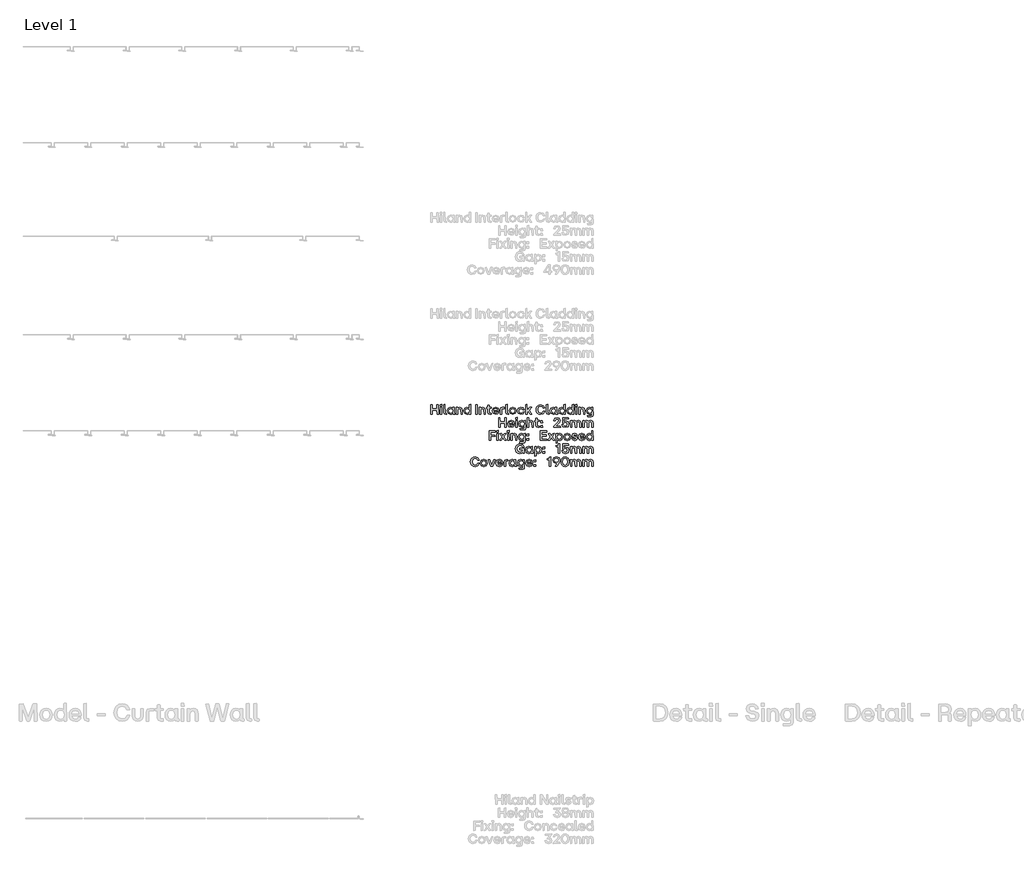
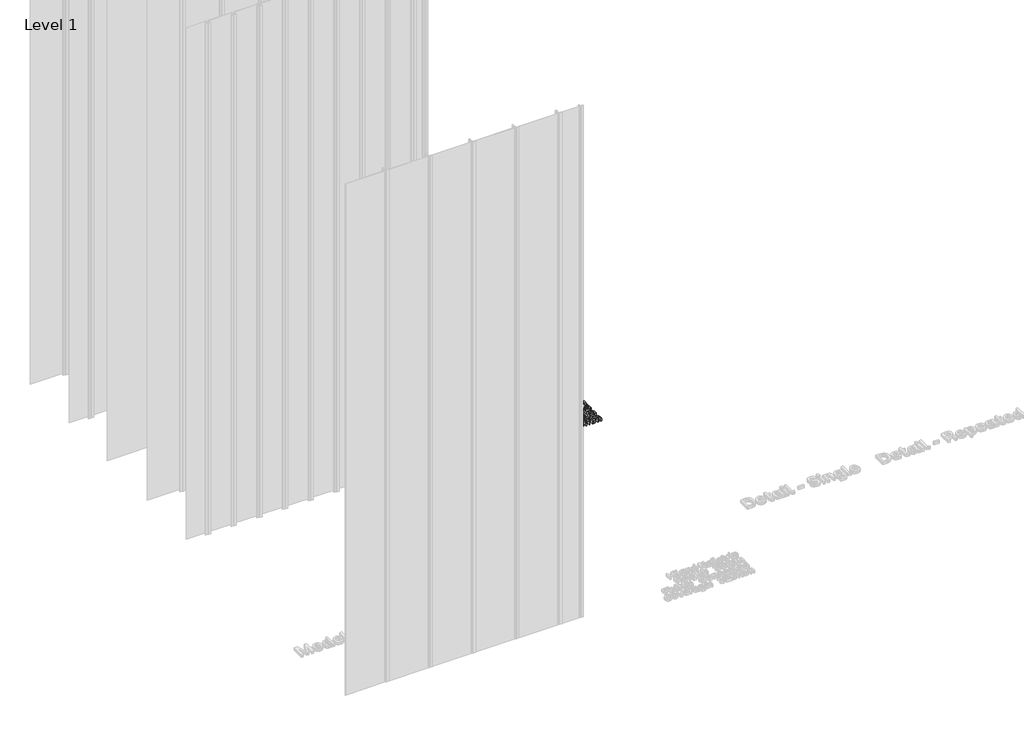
# One storey, part 32 of 64: 1 proxy.
"""IFC4 building model written with IfcOpenShell, lengths in millimetres."""

from ifc_helpers import new_model, si_unit, origin, origin_with_axes, place, context, project, spatial, polyline, outline, extrude, element, save

model = new_model("IFC4")

# Units and contexts
model_context = context("Model", 3, world=origin())
ifc_project = project(units=[si_unit("LENGTHUNIT", "METRE", prefix="MILLI")], contexts=[model_context])

# Site, building, storey
site = spatial("IfcSite", under=ifc_project)
building = spatial("IfcBuilding", under=site)
storey = spatial("IfcBuildingStorey", under=building, Name="Level 1", Elevation=0.0)

# Proxy
placement = place(None, origin())
element("IfcBuildingElementProxy", 1, Name="50mm", ObjectType="50mm", at=placement, inside=storey, context=model_context, shape_type="SweptSolid", body=[
    extrude(outline(polyline([(2183.5639115, 96.9748178), (2182.8665797, 118.9128767), (2159.0178316, 118.9128767), (2159.0178316, 97.6721497), (2151.5145413, 96.9748178), (2150.7893162, 146.2482839), (2158.2786599, 146.973509), (2159.0178316, 125.8861949), (2182.8665797, 125.8861949), (2182.8665797, 146.2482839), (2190.3559234, 146.973509), (2191.0532552, 97.6721497), (2183.5639115, 96.9748178)])), origin_with_axes(), (0.0, 0.0, 1.0), 20.0),
    extrude(outline(polyline([(2201.1506198, 96.9748178), (2200.4253948, 132.6782068), (2207.6358057, 133.3755386), (2208.3331375, 97.6721497), (2201.1506198, 96.9748178)])), origin_with_axes(), (0.0, 0.0, 1.0), 20.0),
    extrude(outline(polyline([(2200.2161952, 140.0420307), (2199.8675293, 148.0892399), (2208.2634043, 148.8284116), (2209.0025761, 140.3906966), (2200.2161952, 140.0420307)])), origin_with_axes(), (0.0, 0.0, 1.0), 20.0),
    extrude(outline(polyline([(2227.7329086, 96.9748178), (2220.0343654, 99.6246787), (2217.3845045, 107.3371686), (2217.3845045, 147.6708408), (2224.5949154, 148.4100125), (2225.2922473, 103.2508042), (2231.9587394, 103.2508042), (2232.6560712, 97.6721497), (2227.7329086, 96.9748178)])), origin_with_axes(), (0.0, 0.0, 1.0), 20.0),
    extrude(outline(polyline([(2252.8229073, 96.5564188), (2241.0519463, 101.5981278), (2236.6727025, 115.105445), (2241.0519463, 128.7452553), (2252.8229073, 133.8357776), (2259.4405862, 132.2319144), (2264.4265087, 127.838724), (2264.7472813, 132.6782068), (2271.929799, 133.3755386), (2272.6550241, 103.2508042), (2276.6019222, 103.2508042), (2277.299254, 97.6721497), (2271.3022004, 96.9748178), (2266.6475105, 98.282315), (2265.0959472, 102.2048065), (2259.7404389, 98.1602819), (2252.8229073, 96.5564188)]), holes=[polyline([(2244.7338583, 115.105445), (2247.4883189, 106.2144644), (2255.0125292, 102.9718715), (2262.3763532, 106.2005178), (2265.0262141, 115.105445), (2262.3554332, 124.1010254), (2255.0125292, 127.378485), (2247.4883189, 124.1010254), (2244.7338583, 115.105445)])]), origin_with_axes(), (0.0, 0.0, 1.0), 20.0),
    extrude(outline(polyline([(2284.160999, 96.9748178), (2283.435774, 132.6782068), (2290.297519, 133.3755386), (2290.9948508, 127.838724), (2296.1585929, 132.3365142), (2302.7797585, 133.8357776), (2312.3401777, 129.6517867), (2315.6525038, 117.40664), (2315.6525038, 97.6721497), (2308.4281462, 96.9748178), (2307.7029211, 117.40664), (2305.750392, 124.7844106), (2299.5790055, 127.0995522), (2293.3518324, 124.749544), (2291.3435167, 117.40664), (2291.3435167, 97.6721497), (2284.160999, 96.9748178)])), origin_with_axes(), (0.0, 0.0, 1.0), 20.0),
    extrude(outline(polyline([(2338.5110407, 96.5564188), (2326.7400796, 101.5981278), (2322.3608359, 115.105445), (2326.7400796, 128.7452553), (2338.5110407, 133.8357776), (2345.1287196, 132.2319144), (2350.1146421, 127.838724), (2350.4354147, 147.6708408), (2357.6179324, 148.4100125), (2358.3431575, 97.6721497), (2351.4814124, 96.9748178), (2350.7840806, 102.4837392), (2345.4285723, 98.1602819), (2338.5110407, 96.5564188)]), holes=[polyline([(2330.4219916, 115.105445), (2333.1764523, 106.2144644), (2340.7006626, 102.9718715), (2348.0644865, 106.2005178), (2350.7143474, 115.105445), (2348.0435666, 124.1010254), (2340.7006626, 127.378485), (2333.1764523, 124.1010254), (2330.4219916, 115.105445)])]), origin_with_axes(), (0.0, 0.0, 1.0), 20.0),
    extrude(outline(polyline([(2385.7204045, 96.9748178), (2385.0230727, 146.2482839), (2392.526363, 146.973509), (2393.2236949, 97.6721497), (2385.7204045, 96.9748178)])), origin_with_axes(), (0.0, 0.0, 1.0), 20.0),
    extrude(outline(polyline([(2403.7673519, 96.9748178), (2403.0421268, 132.6782068), (2409.9038719, 133.3755386), (2410.6012037, 127.838724), (2415.7649458, 132.3365142), (2422.3861113, 133.8357776), (2431.9465305, 129.6517867), (2435.2588566, 117.40664), (2435.2588566, 97.6721497), (2428.034499, 96.9748178), (2427.3092739, 117.40664), (2425.3567449, 124.7844106), (2419.1853583, 127.0995522), (2412.9581852, 124.749544), (2410.9498696, 117.40664), (2410.9498696, 97.6721497), (2403.7673519, 96.9748178)])), origin_with_axes(), (0.0, 0.0, 1.0), 20.0),
    extrude(outline(polyline([(2458.5357926, 96.9748178), (2450.8233027, 99.6246787), (2448.1734418, 107.3371686), (2448.1734418, 127.0995522), (2441.9671887, 127.0995522), (2441.2419636, 132.6782068), (2448.1734418, 133.3755386), (2448.1734418, 143.3892234), (2455.3977994, 144.1144485), (2456.0951313, 133.3755386), (2464.8815121, 133.3755386), (2465.6067372, 127.838724), (2456.0951313, 127.0995522), (2456.0951313, 103.2508042), (2464.8815121, 103.2508042), (2465.6067372, 97.6721497), (2458.5357926, 96.9748178)])), origin_with_axes(), (0.0, 0.0, 1.0), 20.0),
    extrude(outline(polyline([(2488.9394597, 96.5564188), (2475.5367422, 101.5981278), (2470.5298998, 115.105445), (2475.5158223, 128.759202), (2488.9394597, 133.8357776), (2501.219473, 128.8289351), (2505.7172632, 115.1751782), (2505.7172632, 113.264489), (2478.6607888, 112.5253173), (2481.7290488, 105.482266), (2488.9394597, 102.9718715), (2494.7273138, 104.2479887), (2497.7258406, 107.8253009), (2504.8107318, 108.4110596), (2500.1525553, 99.6455987), (2488.9394597, 96.5564188)]), holes=[polyline([(2478.730522, 118.3131714), (2497.9350401, 118.3131714), (2495.2921526, 124.9587436), (2488.9394597, 127.378485), (2481.8475952, 125.07729), (2478.730522, 118.3131714)])]), origin_with_axes(), (0.0, 0.0, 1.0), 20.0),
    extrude(outline(polyline([(2513.1787136, 96.9748178), (2512.4813818, 123.0550277), (2515.1312427, 130.7465976), (2522.8297859, 133.3755386), (2532.9829371, 133.3755386), (2533.6802689, 127.378485), (2520.3891246, 126.6811531), (2520.3891246, 97.6721497), (2513.1787136, 96.9748178)])), origin_with_axes(), (0.0, 0.0, 1.0), 20.0),
    extrude(outline(polyline([(2550.8485782, 96.9748178), (2543.150035, 99.6246787), (2540.5001741, 107.3371686), (2540.5001741, 147.6708408), (2547.7105851, 148.4100125), (2548.4079169, 103.2508042), (2555.074409, 103.2508042), (2555.7717408, 97.6721497), (2550.8485782, 96.9748178)])), origin_with_axes(), (0.0, 0.0, 1.0), 20.0),
    extrude(outline(polyline([(2577.9887324, 96.5564188), (2564.8300811, 101.6818076), (2559.7883721, 115.105445), (2564.8440277, 128.6406555), (2577.9887324, 133.8357776), (2591.2589569, 128.6406555), (2596.3285592, 115.105445), (2591.2589569, 101.6818076), (2577.9887324, 96.5564188)]), holes=[polyline([(2567.8495279, 115.105445), (2570.548202, 106.2005178), (2577.9887324, 102.9718715), (2585.5268894, 106.2144644), (2588.28135, 115.105445), (2585.540836, 124.1010254), (2577.9887324, 127.378485), (2570.548202, 124.1010254), (2567.8495279, 115.105445)])]), origin_with_axes(), (0.0, 0.0, 1.0), 20.0),
    extrude(outline(polyline([(2620.0796808, 96.5564188), (2606.7466965, 101.5981278), (2601.7398541, 115.105445), (2606.8164297, 128.6406555), (2620.0796808, 133.8357776), (2631.15331, 130.3979317), (2636.369352, 121.3116982), (2629.3541939, 120.5446332), (2625.783855, 125.844355), (2620.0796808, 127.378485), (2612.5206039, 124.1010254), (2609.8010098, 115.105445), (2612.5345505, 106.1795978), (2620.0796808, 102.9718715), (2625.958188, 104.4362683), (2628.9357948, 109.1781246), (2636.0206861, 109.8475631), (2631.3625095, 99.9942646), (2620.0796808, 96.5564188)])), origin_with_axes(), (0.0, 0.0, 1.0), 20.0),
    extrude(outline(polyline([(2644.765227, 96.9748178), (2644.0400019, 147.6708408), (2651.2504129, 148.4100125), (2651.9477447, 117.6158396), (2667.1914182, 133.0268727), (2675.0991609, 133.3755386), (2662.3798286, 118.4526377), (2676.4659313, 97.8534559), (2668.8231746, 96.9748178), (2657.1080001, 113.264489), (2651.9477447, 108.2018601), (2651.9477447, 97.6721497), (2644.765227, 96.9748178)])), origin_with_axes(), (0.0, 0.0, 1.0), 20.0),
    extrude(outline(polyline([(2722.7548172, 96.5564188), (2712.7481056, 98.2701117), (2705.0425891, 103.4111905), (2700.1263998, 111.4810629), (2698.48767, 121.9811367), (2700.1403464, 132.3051342), (2705.0983756, 140.4046433), (2712.8178388, 145.6450918), (2722.7548172, 147.391908), (2736.9315729, 142.7755714), (2743.8839711, 130.4885849), (2736.5619871, 129.6796799), (2731.398245, 137.8698421), (2722.7548172, 140.3906966), (2711.0954292, 135.4535874), (2706.8556518, 121.9811367), (2711.0745093, 108.397113), (2722.7548172, 103.5297369), (2731.5690913, 106.0157248), (2736.2551611, 113.4736886), (2743.6747716, 114.1291805), (2737.2105057, 101.1588087), (2722.7548172, 96.5564188)])), origin_with_axes(), (0.0, 0.0, 1.0), 20.0),
    extrude(outline(polyline([(2762.3911575, 96.9748178), (2754.6926143, 99.6246787), (2752.0427534, 107.3371686), (2752.0427534, 147.6708408), (2759.2531643, 148.4100125), (2759.9504961, 103.2508042), (2766.6169883, 103.2508042), (2767.3143201, 97.6721497), (2762.3911575, 96.9748178)])), origin_with_axes(), (0.0, 0.0, 1.0), 20.0),
    extrude(outline(polyline([(2787.4811562, 96.5564188), (2775.7101952, 101.5981278), (2771.3309514, 115.105445), (2775.7101952, 128.7452553), (2787.4811562, 133.8357776), (2794.0988351, 132.2319144), (2799.0847576, 127.838724), (2799.4055302, 132.6782068), (2806.5880479, 133.3755386), (2807.313273, 103.2508042), (2811.2601711, 103.2508042), (2811.9575029, 97.6721497), (2805.9604493, 96.9748178), (2801.3057594, 98.282315), (2799.7541961, 102.2048065), (2794.3986878, 98.1602819), (2787.4811562, 96.5564188)]), holes=[polyline([(2779.3921071, 115.105445), (2782.1465678, 106.2144644), (2789.6707781, 102.9718715), (2797.034602, 106.2005178), (2799.6844629, 115.105445), (2797.0136821, 124.1010254), (2789.6707781, 127.378485), (2782.1465678, 124.1010254), (2779.3921071, 115.105445)])]), origin_with_axes(), (0.0, 0.0, 1.0), 20.0),
    extrude(outline(polyline([(2832.1103923, 96.5564188), (2820.3394313, 101.5981278), (2815.9601875, 115.105445), (2820.3394313, 128.7452553), (2832.1103923, 133.8357776), (2838.7280712, 132.2319144), (2843.7139937, 127.838724), (2844.0347663, 147.6708408), (2851.217284, 148.4100125), (2851.9425091, 97.6721497), (2845.0807641, 96.9748178), (2844.3834323, 102.4837392), (2839.0279239, 98.1602819), (2832.1103923, 96.5564188)]), holes=[polyline([(2824.0213433, 115.105445), (2826.7758039, 106.2144644), (2834.3000142, 102.9718715), (2841.6638382, 106.2005178), (2844.3136991, 115.105445), (2841.6429182, 124.1010254), (2834.3000142, 127.378485), (2826.7758039, 124.1010254), (2824.0213433, 115.105445)])]), origin_with_axes(), (0.0, 0.0, 1.0), 20.0),
    extrude(outline(polyline([(2874.954459, 96.5564188), (2863.183498, 101.5981278), (2858.8042542, 115.105445), (2863.183498, 128.7452553), (2874.954459, 133.8357776), (2881.5721379, 132.2319144), (2886.5580604, 127.838724), (2886.878833, 147.6708408), (2894.0613507, 148.4100125), (2894.7865758, 97.6721497), (2887.9248308, 96.9748178), (2887.2274989, 102.4837392), (2881.8719906, 98.1602819), (2874.954459, 96.5564188)]), holes=[polyline([(2866.86541, 115.105445), (2869.6198706, 106.2144644), (2877.1440809, 102.9718715), (2884.5079049, 106.2005178), (2887.1577658, 115.105445), (2884.4869849, 124.1010254), (2877.1440809, 127.378485), (2869.6198706, 124.1010254), (2866.86541, 115.105445)])]), origin_with_axes(), (0.0, 0.0, 1.0), 20.0),
    extrude(outline(polyline([(2904.5073813, 96.9748178), (2903.7821562, 132.6782068), (2910.9925672, 133.3755386), (2911.689899, 97.6721497), (2904.5073813, 96.9748178)])), origin_with_axes(), (0.0, 0.0, 1.0), 20.0),
    extrude(outline(polyline([(2903.5729567, 140.0420307), (2903.2242908, 148.0892399), (2911.6201658, 148.8284116), (2912.3593375, 140.3906966), (2903.5729567, 140.0420307)])), origin_with_axes(), (0.0, 0.0, 1.0), 20.0),
    extrude(outline(polyline([(2921.466491, 96.9748178), (2920.741266, 132.6782068), (2927.603011, 133.3755386), (2928.3003428, 127.838724), (2933.4640849, 132.3365142), (2940.0852505, 133.8357776), (2949.6456697, 129.6517867), (2952.9579958, 117.40664), (2952.9579958, 97.6721497), (2945.7336382, 96.9748178), (2945.0084131, 117.40664), (2943.055884, 124.7844106), (2936.8844975, 127.0995522), (2930.6573244, 124.749544), (2928.6490087, 117.40664), (2928.6490087, 97.6721497), (2921.466491, 96.9748178)])), origin_with_axes(), (0.0, 0.0, 1.0), 20.0),
    extrude(outline(polyline([(2967.2393514, 83.4186874), (2966.5001796, 88.9973419), (2987.7409067, 89.6946737), (2987.7409067, 102.5534724), (2982.4342116, 98.1602819), (2975.8165327, 96.5564188), (2964.0455716, 101.6329944), (2959.6663278, 115.2449114), (2964.0455716, 128.7801219), (2975.8165327, 133.8357776), (2982.7340643, 132.2319144), (2987.8106399, 127.9084571), (2988.0895726, 132.6782068), (2994.9234244, 133.3755386), (2995.6486495, 93.4184256), (2993.0685218, 85.9778951), (2985.6489113, 83.4186874), (2967.2393514, 83.4186874)]), holes=[polyline([(2967.7274836, 115.2449114), (2970.4819443, 106.249331), (2978.0061546, 102.9718715), (2985.3490586, 106.249331), (2988.0198394, 115.2449114), (2985.3699785, 124.156812), (2978.0061546, 127.378485), (2970.4819443, 124.135892), (2967.7274836, 115.2449114)])]), origin_with_axes(), (0.0, 0.0, 1.0), 20.0),
    extrude(outline(polyline([(2536.1348769, 29.1231234), (2535.4375451, 51.0611823), (2511.5887971, 51.0611823), (2511.5887971, 29.8204552), (2504.0855067, 29.1231234), (2503.3602816, 78.3965894), (2510.8496253, 79.1218145), (2511.5887971, 58.0345004), (2535.4375451, 58.0345004), (2535.4375451, 78.3965894), (2542.9268888, 79.1218145), (2543.6242206, 29.8204552), (2536.1348769, 29.1231234)])), origin_with_axes(), (0.0, 0.0, 1.0), 20.0),
    extrude(outline(polyline([(2569.2720848, 28.7047243), (2555.8693673, 33.7464333), (2550.8625249, 47.2537506), (2555.8484473, 60.9075075), (2569.2720848, 65.9840831), (2581.552098, 60.9772407), (2586.0498882, 47.3234838), (2586.0498882, 45.4127946), (2558.9934138, 44.6736229), (2562.0616738, 37.6305715), (2569.2720848, 35.120177), (2575.0599388, 36.3962942), (2578.0584656, 39.9736064), (2585.1433569, 40.5593652), (2580.4851803, 31.7939042), (2569.2720848, 28.7047243)]), holes=[polyline([(2559.063147, 50.4614769), (2578.2676652, 50.4614769), (2575.6247776, 57.1070491), (2569.2720848, 59.5267905), (2562.1802202, 57.2255955), (2559.063147, 50.4614769)])]), origin_with_axes(), (0.0, 0.0, 1.0), 20.0),
    extrude(outline(polyline([(2593.8878978, 29.1231234), (2593.1626727, 64.8265123), (2600.3730837, 65.5238441), (2601.0704155, 29.8204552), (2593.8878978, 29.1231234)])), origin_with_axes(), (0.0, 0.0, 1.0), 20.0),
    extrude(outline(polyline([(2592.9534732, 72.1903363), (2592.6048073, 80.2375454), (2601.0006823, 80.9767171), (2601.7398541, 72.5390022), (2592.9534732, 72.1903363)])), origin_with_axes(), (0.0, 0.0, 1.0), 20.0),
    extrude(outline(polyline([(2615.5609706, 15.5669929), (2614.8217989, 21.1456474), (2636.062526, 21.8429792), (2636.062526, 34.7017779), (2630.7558309, 30.3085875), (2624.1381519, 28.7047243), (2612.3671909, 33.7812999), (2607.9879471, 47.3932169), (2612.3671909, 60.9284275), (2624.1381519, 65.9840831), (2631.0556835, 64.3802199), (2636.1322591, 60.0567627), (2636.4111919, 64.8265123), (2643.2450437, 65.5238441), (2643.9702687, 25.5667311), (2641.390141, 18.1262007), (2633.9705305, 15.5669929), (2615.5609706, 15.5669929)]), holes=[polyline([(2616.0491029, 47.3932169), (2618.8035636, 38.3976365), (2626.3277738, 35.120177), (2633.6706778, 38.3976365), (2636.3414587, 47.3932169), (2633.6915978, 56.3051175), (2626.3277738, 59.5267905), (2618.8035636, 56.2841976), (2616.0491029, 47.3932169)])]), origin_with_axes(), (0.0, 0.0, 1.0), 20.0),
    extrude(outline(polyline([(2653.6910742, 29.1231234), (2652.9658492, 79.8191463), (2660.1762601, 80.558318), (2660.8735919, 60.2659622), (2665.9606275, 64.5545529), (2672.3098337, 65.9840831), (2681.8702529, 61.8000922), (2685.182579, 49.5549456), (2685.182579, 29.8204552), (2677.9582214, 29.1231234), (2677.2329963, 49.5549456), (2675.2804672, 56.9327162), (2669.1090807, 59.2478578), (2662.8819076, 56.8978496), (2660.8735919, 49.5549456), (2660.8735919, 29.8204552), (2653.6910742, 29.1231234)])), origin_with_axes(), (0.0, 0.0, 1.0), 20.0),
    extrude(outline(polyline([(2708.459515, 29.1231234), (2700.7470251, 31.7729843), (2698.0971642, 39.4854742), (2698.0971642, 59.2478578), (2691.890911, 59.2478578), (2691.165686, 64.8265123), (2698.0971642, 65.5238441), (2698.0971642, 75.537529), (2705.3215218, 76.2627541), (2706.0188536, 65.5238441), (2714.8052345, 65.5238441), (2715.5304596, 59.9870295), (2706.0188536, 59.2478578), (2706.0188536, 35.3991097), (2714.8052345, 35.3991097), (2715.5304596, 29.8204552), (2708.459515, 29.1231234)])), origin_with_axes(), (0.0, 0.0, 1.0), 20.0),
    extrude(outline(polyline([(2722.9361234, 52.7626719), (2722.2387916, 62.3858509), (2731.7225043, 63.1250227), (2732.4477294, 53.4600037), (2722.9361234, 52.7626719)])), origin_with_axes(), (0.0, 0.0, 1.0), 20.0),
    extrude(outline(polyline([(2722.5874575, 29.4717893), (2722.2387916, 38.7463024), (2731.7225043, 39.4854742), (2732.4477294, 29.8204552), (2722.5874575, 29.4717893)])), origin_with_axes(), (0.0, 0.0, 1.0), 20.0),
    extrude(outline(polyline([(2790.4238964, 29.1231234), (2789.6986714, 33.9068196), (2807.0622335, 49.9036115), (2814.2098846, 57.8183276), (2816.1972803, 65.105445), (2814.216858, 70.7852127), (2808.2755909, 72.6784685), (2801.4068725, 70.6004197), (2798.5547854, 64.031554), (2791.1212283, 63.3342222), (2795.7096716, 75.5305557), (2808.2755909, 79.5402136), (2820.1023385, 75.670022), (2824.4257957, 65.105445), (2821.7410682, 55.328853), (2812.5711549, 44.9246623), (2803.1153355, 36.4172142), (2825.8483526, 36.1382814), (2826.5456844, 29.8204552), (2790.4238964, 29.1231234)])), origin_with_axes(), (0.0, 0.0, 1.0), 20.0),
    extrude(outline(polyline([(2851.8030428, 28.7047243), (2838.6025515, 32.4005829), (2832.7937775, 43.1115996), (2840.1576015, 43.9065579), (2844.365999, 37.4736719), (2851.8030428, 35.5385761), (2859.2087066, 38.2233036), (2861.802781, 45.8311937), (2859.2226533, 53.1322578), (2851.6635764, 55.6217323), (2841.3012256, 51.6887809), (2836.4617428, 51.9677136), (2837.5077406, 78.3965894), (2867.1443427, 79.1218145), (2867.8695678, 72.8179349), (2844.1602861, 72.1206031), (2843.3653278, 59.4570573), (2848.5395299, 61.6536525), (2854.2437041, 62.4555841), (2865.7984923, 58.0275271), (2870.0034031, 45.8311937), (2865.1918136, 33.2234345), (2851.8030428, 28.7047243)])), origin_with_axes(), (0.0, 0.0, 1.0), 20.0),
    extrude(outline(polyline([(2878.6224244, 29.1231234), (2877.8971993, 64.8265123), (2884.7589443, 65.5238441), (2885.4562761, 59.9870295), (2890.4421986, 64.4848197), (2896.8925179, 65.9840831), (2903.1789642, 64.4848197), (2907.394335, 59.9870295), (2913.2170557, 64.4290332), (2920.4623332, 65.9840831), (2929.7368464, 61.8140389), (2932.9445727, 49.5549456), (2932.9445727, 29.8204552), (2925.7341617, 29.1231234), (2925.0368299, 49.5549456), (2923.154034, 56.9327162), (2917.1848737, 59.2478578), (2911.2784732, 56.8978496), (2909.3747574, 49.5549456), (2909.3747574, 29.8204552), (2902.1643464, 29.1231234), (2901.4670146, 49.5549456), (2899.5981653, 56.9327162), (2893.6847915, 59.2478578), (2887.7086579, 56.8978496), (2885.804942, 49.5549456), (2885.804942, 29.8204552), (2878.6224244, 29.1231234)])), origin_with_axes(), (0.0, 0.0, 1.0), 20.0),
    extrude(outline(polyline([(2941.9959397, 29.1231234), (2941.2707146, 64.8265123), (2948.1324596, 65.5238441), (2948.8297914, 59.9870295), (2953.8157139, 64.4848197), (2960.2660332, 65.9840831), (2966.5524795, 64.4848197), (2970.7678503, 59.9870295), (2976.590571, 64.4290332), (2983.8358485, 65.9840831), (2993.1103617, 61.8140389), (2996.318088, 49.5549456), (2996.318088, 29.8204552), (2989.1076771, 29.1231234), (2988.4103452, 49.5549456), (2986.5275493, 56.9327162), (2980.558389, 59.2478578), (2974.6519885, 56.8978496), (2972.7482727, 49.5549456), (2972.7482727, 29.8204552), (2965.5378617, 29.1231234), (2964.8405299, 49.5549456), (2962.9716806, 56.9327162), (2957.0583069, 59.2478578), (2951.0821732, 56.8978496), (2949.1784574, 49.5549456), (2949.1784574, 29.8204552), (2941.9959397, 29.1231234)])), origin_with_axes(), (0.0, 0.0, 1.0), 20.0),
    extrude(outline(polyline([(2454.993347, -38.7285711), (2454.2681219, 10.544895), (2485.8572531, 11.27012), (2486.5545849, 4.9662404), (2462.4966373, 4.2689086), (2462.4966373, -10.7934586), (2484.4207496, -10.7934586), (2485.1180814, -17.0694449), (2462.4966373, -17.8086166), (2462.4966373, -38.0312392), (2454.993347, -38.7285711)])), origin_with_axes(), (0.0, 0.0, 1.0), 20.0),
    extrude(outline(polyline([(2494.8109936, -38.7285711), (2494.0857685, -3.0251822), (2501.2961795, -2.3278503), (2501.9935113, -38.0312392), (2494.8109936, -38.7285711)])), origin_with_axes(), (0.0, 0.0, 1.0), 20.0),
    extrude(outline(polyline([(2493.876569, 4.3386418), (2493.5279031, 12.3858509), (2501.9237781, 13.1250227), (2502.6629498, 4.6873077), (2493.876569, 4.3386418)])), origin_with_axes(), (0.0, 0.0, 1.0), 20.0),
    extrude(outline(polyline([(2508.9110429, -38.7285711), (2521.6722151, -20.249278), (2509.4689083, -3.1646485), (2517.4603309, -2.3278503), (2526.2467118, -14.3219576), (2534.4752272, -2.7462494), (2542.5921695, -2.3278503), (2530.9885681, -19.4403731), (2544.0286731, -37.849933), (2536.0372505, -38.7285711), (2526.316445, -25.2979603), (2517.0419319, -38.310172), (2508.9110429, -38.7285711)])), origin_with_axes(), (0.0, 0.0, 1.0), 20.0),
    extrude(outline(polyline([(2551.0438311, -38.7285711), (2550.318606, -3.0251822), (2557.529017, -2.3278503), (2558.2263488, -38.0312392), (2551.0438311, -38.7285711)])), origin_with_axes(), (0.0, 0.0, 1.0), 20.0),
    extrude(outline(polyline([(2550.1094065, 4.3386418), (2549.7607406, 12.3858509), (2558.1566156, 13.1250227), (2558.8957874, 4.6873077), (2550.1094065, 4.3386418)])), origin_with_axes(), (0.0, 0.0, 1.0), 20.0),
    extrude(outline(polyline([(2568.0029409, -38.7285711), (2567.2777158, -3.0251822), (2574.1394608, -2.3278503), (2574.8367926, -7.8646649), (2580.0005347, -3.3668747), (2586.6217003, -1.8676113), (2596.1821195, -6.0516022), (2599.4944456, -18.2967489), (2599.4944456, -38.0312392), (2592.270088, -38.7285711), (2591.5448629, -18.2967489), (2589.5923338, -10.9189783), (2583.4209473, -8.6038367), (2577.1937742, -10.9538449), (2575.1854586, -18.2967489), (2575.1854586, -38.0312392), (2568.0029409, -38.7285711)])), origin_with_axes(), (0.0, 0.0, 1.0), 20.0),
    extrude(outline(polyline([(2613.7758012, -52.2847015), (2613.0366294, -46.706047), (2634.2773565, -46.0087152), (2634.2773565, -33.1499165), (2628.9706614, -37.543107), (2622.3529825, -39.1469702), (2610.5820215, -34.0703945), (2606.2027777, -20.4584775), (2610.5820215, -6.923267), (2622.3529825, -1.8676113), (2629.2705141, -3.4714745), (2634.3470897, -7.7949318), (2634.6260224, -3.0251822), (2641.4598742, -2.3278503), (2642.1850993, -42.2849633), (2639.6049716, -49.7254938), (2632.1853611, -52.2847015), (2613.7758012, -52.2847015)]), holes=[polyline([(2614.2639334, -20.4584775), (2617.0183941, -29.4540579), (2624.5426044, -32.7315175), (2631.8855084, -29.4540579), (2634.5562892, -20.4584775), (2631.9064284, -11.5465769), (2624.5426044, -8.3249039), (2617.0183941, -11.5674969), (2614.2639334, -20.4584775)])]), origin_with_axes(), (0.0, 0.0, 1.0), 20.0),
    extrude(outline(polyline([(2651.5293456, -15.0890225), (2650.8320138, -5.4658435), (2660.3157265, -4.7266718), (2661.0409516, -14.3916907), (2651.5293456, -15.0890225)])), origin_with_axes(), (0.0, 0.0, 1.0), 20.0),
    extrude(outline(polyline([(2651.1806797, -38.3799052), (2650.8320138, -29.105392), (2660.3157265, -28.3662203), (2661.0409516, -38.0312392), (2651.1806797, -38.3799052)])), origin_with_axes(), (0.0, 0.0, 1.0), 20.0),
    extrude(outline(polyline([(2721.8761791, -38.7285711), (2721.150954, 10.544895), (2753.437417, 11.27012), (2754.1626421, 4.9662404), (2729.3794694, 4.2689086), (2729.3794694, -10.0961268), (2752.0009135, -10.0961268), (2752.7400852, -16.3721131), (2729.3794694, -17.0694449), (2729.3794694, -31.713413), (2754.1626421, -31.713413), (2754.8599739, -38.0312392), (2721.8761791, -38.7285711)])), origin_with_axes(), (0.0, 0.0, 1.0), 20.0),
    extrude(outline(polyline([(2760.6199347, -38.7285711), (2773.3811069, -20.249278), (2761.1778001, -3.1646485), (2769.1692227, -2.3278503), (2777.9556036, -14.3219576), (2786.184119, -2.7462494), (2794.3010613, -2.3278503), (2782.6974599, -19.4403731), (2795.7375649, -37.849933), (2787.7461423, -38.7285711), (2778.0253368, -25.2979603), (2768.7508236, -38.310172), (2760.6199347, -38.7285711)])), origin_with_axes(), (0.0, 0.0, 1.0), 20.0),
    extrude(outline(polyline([(2802.7527229, -52.2847015), (2802.0274978, -3.0251822), (2808.8892429, -2.3278503), (2809.5865747, -7.7949318), (2814.942083, -3.4714745), (2821.8596146, -1.8676113), (2833.6305757, -6.923267), (2838.0098195, -20.4584775), (2833.6305757, -34.0703945), (2821.8596146, -39.1469702), (2815.2419357, -37.543107), (2810.2560132, -33.1499165), (2809.9352406, -51.5873697), (2802.7527229, -52.2847015)]), holes=[polyline([(2809.6563079, -20.4584775), (2812.3270887, -29.4540579), (2819.6699927, -32.7315175), (2827.194203, -29.4540579), (2829.9486637, -20.4584775), (2827.194203, -11.5674969), (2819.6699927, -8.3249039), (2812.3061688, -11.5465769), (2809.6563079, -20.4584775)])]), origin_with_axes(), (0.0, 0.0, 1.0), 20.0),
    extrude(outline(polyline([(2860.9380895, -39.1469702), (2847.7794382, -34.0215813), (2842.7377292, -20.5979439), (2847.7933848, -7.0627334), (2860.9380895, -1.8676113), (2874.208314, -7.0627334), (2879.2779163, -20.5979439), (2874.208314, -34.0215813), (2860.9380895, -39.1469702)]), holes=[polyline([(2850.798885, -20.5979439), (2853.4975591, -29.5028712), (2860.9380895, -32.7315175), (2868.4762465, -29.4889245), (2871.2307071, -20.5979439), (2868.4901931, -11.6023635), (2860.9380895, -8.3249039), (2853.4975591, -11.6023635), (2850.798885, -20.5979439)])]), origin_with_axes(), (0.0, 0.0, 1.0), 20.0),
    extrude(outline(polyline([(2900.3094438, -39.1469702), (2889.5775072, -36.1972566), (2885.1076102, -27.7386217), (2892.0530351, -26.9436634), (2895.1352417, -31.7552529), (2900.3094438, -33.0104502), (2904.7723674, -31.8249861), (2906.4459638, -28.645153), (2905.246553, -25.7860926), (2901.1880819, -24.2938025), (2896.0975596, -23.3872711), (2888.3711231, -19.8448255), (2885.8746752, -12.7459877), (2889.5356673, -4.8312716), (2899.4029124, -1.8676113), (2909.0958246, -4.622072), (2913.3216554, -12.4391617), (2906.3762306, -13.2341199), (2903.6287432, -9.071049), (2899.4029124, -8.0041313), (2895.1491884, -9.1059156), (2893.6847915, -12.2996953), (2894.7307893, -15.0681026), (2898.538221, -16.5813126), (2903.9774091, -17.5994171), (2911.9897517, -21.0860762), (2914.2560801, -28.2267539), (2910.6299546, -36.3227763), (2900.3094438, -39.1469702)])), origin_with_axes(), (0.0, 0.0, 1.0), 20.0),
    extrude(outline(polyline([(2937.9095752, -39.1469702), (2924.5068578, -34.1052611), (2919.5000153, -20.5979439), (2924.4859378, -6.944187), (2937.9095752, -1.8676113), (2950.1895885, -6.8744538), (2954.6873787, -20.5282107), (2954.6873787, -22.4388999), (2927.6309043, -23.1780716), (2930.6991643, -30.2211229), (2937.9095752, -32.7315175), (2943.6974293, -31.4554002), (2946.6959561, -27.878088), (2953.7808473, -27.2923293), (2949.1226708, -36.0577902), (2937.9095752, -39.1469702)]), holes=[polyline([(2927.7006375, -17.3902175), (2946.9051556, -17.3902175), (2944.2622681, -10.7446453), (2937.9095752, -8.3249039), (2930.8177107, -10.6260989), (2927.7006375, -17.3902175)])]), origin_with_axes(), (0.0, 0.0, 1.0), 20.0),
    extrude(outline(polyline([(2975.8165327, -39.1469702), (2964.0455716, -34.1052611), (2959.6663278, -20.5979439), (2964.0455716, -6.9581336), (2975.8165327, -1.8676113), (2982.4342116, -3.4714745), (2987.4201341, -7.8646649), (2987.7409067, 11.9674519), (2994.9234244, 12.7066236), (2995.6486495, -38.0312392), (2988.7869044, -38.7285711), (2988.0895726, -33.2196497), (2982.7340643, -37.543107), (2975.8165327, -39.1469702)]), holes=[polyline([(2967.7274836, -20.5979439), (2970.4819443, -29.4889245), (2978.0061546, -32.7315175), (2985.3699785, -29.5028712), (2988.0198394, -20.5979439), (2985.3490586, -11.6023635), (2978.0061546, -8.3249039), (2970.4819443, -11.6023635), (2967.7274836, -20.5979439)])]), origin_with_axes(), (0.0, 0.0, 1.0), 20.0),
    extrude(outline(polyline([(2613.9152675, -106.9986646), (2604.231072, -105.2902017), (2596.7957715, -100.1648128), (2592.0626318, -92.1001704), (2590.4849186, -81.5739466), (2592.1986115, -71.2063659), (2597.3396903, -63.1155735), (2605.304963, -57.9012749), (2615.4912374, -56.1631753), (2630.0933656, -60.7795119), (2637.24799, -73.0664985), (2629.8841661, -73.8754034), (2624.5495777, -65.7096479), (2615.4912374, -63.1643867), (2603.315824, -68.080576), (2598.8529003, -81.5739466), (2603.0578112, -95.1440238), (2614.7520657, -100.0253465), (2624.884297, -96.5386874), (2629.6052334, -87.0131348), (2614.1244671, -87.0131348), (2613.399242, -80.7371485), (2636.6203914, -80.0119234), (2637.3177232, -105.8829337), (2630.9720037, -106.5802655), (2630.2746719, -99.2861747), (2623.6779129, -104.8857492), (2613.9152675, -106.9986646)])), origin_with_axes(), (0.0, 0.0, 1.0), 20.0),
    extrude(outline(polyline([(2660.7341256, -106.9986646), (2648.9631645, -101.9569556), (2644.5839207, -88.4496383), (2648.9631645, -74.809828), (2660.7341256, -69.7193058), (2667.3518045, -71.323169), (2672.337727, -75.7163594), (2672.6584996, -70.8768766), (2679.8410173, -70.1795448), (2680.5662424, -100.3042792), (2684.5131404, -100.3042792), (2685.2104723, -105.8829337), (2679.2134187, -106.5802655), (2674.5587288, -105.2727684), (2673.0071655, -101.3502769), (2667.6516572, -105.3948014), (2660.7341256, -106.9986646)]), holes=[polyline([(2652.6450765, -88.4496383), (2655.3995372, -97.340619), (2662.9237475, -100.5832119), (2670.2875714, -97.3545656), (2672.9374323, -88.4496383), (2670.2666515, -79.4540579), (2662.9237475, -76.1765984), (2655.3995372, -79.4540579), (2652.6450765, -88.4496383)])]), origin_with_axes(), (0.0, 0.0, 1.0), 20.0),
    extrude(outline(polyline([(2692.0722173, -120.136396), (2691.3469922, -70.8768766), (2698.2087373, -70.1795448), (2698.9060691, -75.6466262), (2704.2615774, -71.323169), (2711.179109, -69.7193058), (2722.9500701, -74.7749615), (2727.3293139, -88.310172), (2722.9500701, -101.922089), (2711.179109, -106.9986646), (2704.5614301, -105.3948014), (2699.5755076, -101.001611), (2699.254735, -119.4390642), (2692.0722173, -120.136396)]), holes=[polyline([(2698.9758023, -88.310172), (2701.6465831, -97.3057524), (2708.9894871, -100.5832119), (2716.5136974, -97.3057524), (2719.2681581, -88.310172), (2716.5136974, -79.4191913), (2708.9894871, -76.1765984), (2701.6256632, -79.3982714), (2698.9758023, -88.310172)])]), origin_with_axes(), (0.0, 0.0, 1.0), 20.0),
    extrude(outline(polyline([(2734.5397248, -82.940717), (2733.842393, -73.317538), (2743.3261057, -72.5783662), (2744.0513308, -82.2433852), (2734.5397248, -82.940717)])), origin_with_axes(), (0.0, 0.0, 1.0), 20.0),
    extrude(outline(polyline([(2734.1910589, -106.2315996), (2733.842393, -96.9570865), (2743.3261057, -96.2179148), (2744.0513308, -105.8829337), (2734.1910589, -106.2315996)])), origin_with_axes(), (0.0, 0.0, 1.0), 20.0),
    extrude(outline(polyline([(2814.9002431, -106.5802655), (2814.1610714, -71.5742084), (2803.1153355, -71.5742084), (2802.3761637, -65.2982221), (2814.5097373, -64.6008903), (2814.5097373, -57.3067995), (2821.8038281, -56.5815744), (2822.5290532, -105.8829337), (2814.9002431, -106.5802655)])), origin_with_axes(), (0.0, 0.0, 1.0), 20.0),
    extrude(outline(polyline([(2851.8030428, -106.9986646), (2838.6025515, -103.302806), (2832.7937775, -92.5917893), (2840.1576015, -91.796831), (2844.365999, -98.229717), (2851.8030428, -100.1648128), (2859.2087066, -97.4800853), (2861.802781, -89.8721952), (2859.2226533, -82.5711311), (2851.6635764, -80.0816566), (2841.3012256, -84.014608), (2836.4617428, -83.7356753), (2837.5077406, -57.3067995), (2867.1443427, -56.5815744), (2867.8695678, -62.885454), (2844.1602861, -63.5827858), (2843.3653278, -76.2463316), (2848.5395299, -74.0497364), (2854.2437041, -73.2478048), (2865.7984923, -77.6758618), (2870.0034031, -89.8721952), (2865.1918136, -102.4799544), (2851.8030428, -106.9986646)])), origin_with_axes(), (0.0, 0.0, 1.0), 20.0),
    extrude(outline(polyline([(2878.6224244, -106.5802655), (2877.8971993, -70.8768766), (2884.7589443, -70.1795448), (2885.4562761, -75.7163594), (2890.4421986, -71.2185692), (2896.8925179, -69.7193058), (2903.1789642, -71.2185692), (2907.394335, -75.7163594), (2913.2170557, -71.2743557), (2920.4623332, -69.7193058), (2929.7368464, -73.88935), (2932.9445727, -86.1484433), (2932.9445727, -105.8829337), (2925.7341617, -106.5802655), (2925.0368299, -86.1484433), (2923.154034, -78.7706727), (2917.1848737, -76.4555311), (2911.2784732, -78.8055393), (2909.3747574, -86.1484433), (2909.3747574, -105.8829337), (2902.1643464, -106.5802655), (2901.4670146, -86.1484433), (2899.5981653, -78.7706727), (2893.6847915, -76.4555311), (2887.7086579, -78.8055393), (2885.804942, -86.1484433), (2885.804942, -105.8829337), (2878.6224244, -106.5802655)])), origin_with_axes(), (0.0, 0.0, 1.0), 20.0),
    extrude(outline(polyline([(2941.9959397, -106.5802655), (2941.2707146, -70.8768766), (2948.1324596, -70.1795448), (2948.8297914, -75.7163594), (2953.8157139, -71.2185692), (2960.2660332, -69.7193058), (2966.5524795, -71.2185692), (2970.7678503, -75.7163594), (2976.590571, -71.2743557), (2983.8358485, -69.7193058), (2993.1103617, -73.88935), (2996.318088, -86.1484433), (2996.318088, -105.8829337), (2989.1076771, -106.5802655), (2988.4103452, -86.1484433), (2986.5275493, -78.7706727), (2980.558389, -76.4555311), (2974.6519885, -78.8055393), (2972.7482727, -86.1484433), (2972.7482727, -105.8829337), (2965.5378617, -106.5802655), (2964.8405299, -86.1484433), (2962.9716806, -78.7706727), (2957.0583069, -76.4555311), (2951.0821732, -78.8055393), (2949.1784574, -86.1484433), (2949.1784574, -105.8829337), (2941.9959397, -106.5802655)])), origin_with_axes(), (0.0, 0.0, 1.0), 20.0),
    extrude(outline(polyline([(2381.7874531, -174.8503591), (2371.7807416, -173.1366661), (2364.075225, -167.9955873), (2359.1590357, -159.9257149), (2357.5203059, -149.4256411), (2359.1729823, -139.1016436), (2364.1310115, -131.0021346), (2371.8504747, -125.761686), (2381.7874531, -124.0148698), (2395.9642089, -128.6312064), (2402.9166071, -140.918193), (2395.594623, -141.7270979), (2390.4308809, -133.5369357), (2381.7874531, -131.0160812), (2370.1280652, -135.9531904), (2365.8882877, -149.4256411), (2370.1071452, -163.0096648), (2381.7874531, -167.8770409), (2390.6017272, -165.391053), (2395.287797, -157.9330892), (2402.7074075, -157.2775973), (2396.2431416, -170.2479691), (2381.7874531, -174.8503591)])), origin_with_axes(), (0.0, 0.0, 1.0), 20.0),
    extrude(outline(polyline([(2427.1419143, -174.8503591), (2413.983263, -169.7249702), (2408.941554, -156.3013328), (2413.9972096, -142.7661223), (2427.1419143, -137.5710002), (2440.4121387, -142.7661223), (2445.481741, -156.3013328), (2440.4121387, -169.7249702), (2427.1419143, -174.8503591)]), holes=[polyline([(2417.0027097, -156.3013328), (2419.7013839, -165.2062601), (2427.1419143, -168.4349064), (2434.6800712, -165.1923134), (2437.4345319, -156.3013328), (2434.6940179, -147.3057524), (2427.1419143, -144.0282929), (2419.7013839, -147.3057524), (2417.0027097, -156.3013328)])]), origin_with_axes(), (0.0, 0.0, 1.0), 20.0),
    extrude(outline(polyline([(2463.5844749, -174.43196), (2449.1915463, -138.8680374), (2456.4437972, -138.0312392), (2467.8800389, -167.9467741), (2478.7165753, -138.5891047), (2486.0803993, -138.0312392), (2472.9705612, -173.8740945), (2463.5844749, -174.43196)])), origin_with_axes(), (0.0, 0.0, 1.0), 20.0),
    extrude(outline(polyline([(2508.5763236, -174.8503591), (2495.1736061, -169.80865), (2490.1667637, -156.3013328), (2495.1526862, -142.6475759), (2508.5763236, -137.5710002), (2520.8563369, -142.5778427), (2525.3541271, -156.2315996), (2525.3541271, -158.1422888), (2498.2976527, -158.8814605), (2501.3659127, -165.9245118), (2508.5763236, -168.4349064), (2514.3641777, -167.1587891), (2517.3627045, -163.5814769), (2524.4475957, -162.9957182), (2519.7894192, -171.7611791), (2508.5763236, -174.8503591)]), holes=[polyline([(2498.3673859, -153.0936064), (2517.571904, -153.0936064), (2514.9290165, -146.4480342), (2508.5763236, -144.0282929), (2501.4844591, -146.3294878), (2498.3673859, -153.0936064)])]), origin_with_axes(), (0.0, 0.0, 1.0), 20.0),
    extrude(outline(polyline([(2532.8155775, -174.43196), (2532.1182457, -148.3517501), (2534.7681066, -140.6601802), (2542.4666498, -138.0312392), (2552.619801, -138.0312392), (2553.3171328, -144.0282929), (2540.0259885, -144.7256247), (2540.0259885, -173.7346282), (2532.8155775, -174.43196)])), origin_with_axes(), (0.0, 0.0, 1.0), 20.0),
    extrude(outline(polyline([(2574.1534075, -174.8503591), (2562.3824464, -169.80865), (2558.0032026, -156.3013328), (2562.3824464, -142.6615225), (2574.1534075, -137.5710002), (2580.7710864, -139.1748634), (2585.7570089, -143.5680539), (2586.0777815, -138.7285711), (2593.2602992, -138.0312392), (2593.9855243, -168.1559736), (2597.9324223, -168.1559736), (2598.6297542, -173.7346282), (2592.6327006, -174.43196), (2587.9780107, -173.1244628), (2586.4264474, -169.2019714), (2581.0709391, -173.2464959), (2574.1534075, -174.8503591)]), holes=[polyline([(2566.0643584, -156.3013328), (2568.8188191, -165.1923134), (2576.3430294, -168.4349064), (2583.7068533, -165.2062601), (2586.3567142, -156.3013328), (2583.6859334, -147.3057524), (2576.3430294, -144.0282929), (2568.8188191, -147.3057524), (2566.0643584, -156.3013328)])]), origin_with_axes(), (0.0, 0.0, 1.0), 20.0),
    extrude(outline(polyline([(2610.2054623, -187.9880904), (2609.4662906, -182.4094359), (2630.7070176, -181.7121041), (2630.7070176, -168.8533055), (2625.4003225, -173.2464959), (2618.7826436, -174.8503591), (2607.0116826, -169.7737834), (2602.6324388, -156.1618664), (2607.0116826, -142.6266559), (2618.7826436, -137.5710002), (2625.7001752, -139.1748634), (2630.7767508, -143.4983207), (2631.0556835, -138.7285711), (2637.8895353, -138.0312392), (2638.6147604, -177.9883522), (2636.0346327, -185.4288827), (2628.6150222, -187.9880904), (2610.2054623, -187.9880904)]), holes=[polyline([(2610.6935946, -156.1618664), (2613.4480552, -165.1574468), (2620.9722655, -168.4349064), (2628.3151695, -165.1574468), (2630.9859504, -156.1618664), (2628.3360895, -147.2499658), (2620.9722655, -144.0282929), (2613.4480552, -147.2708858), (2610.6935946, -156.1618664)])]), origin_with_axes(), (0.0, 0.0, 1.0), 20.0),
    extrude(outline(polyline([(2663.8860654, -174.8503591), (2650.4833479, -169.80865), (2645.4765055, -156.3013328), (2650.4624279, -142.6475759), (2663.8860654, -137.5710002), (2676.1660786, -142.5778427), (2680.6638688, -156.2315996), (2680.6638688, -158.1422888), (2653.6073944, -158.8814605), (2656.6756544, -165.9245118), (2663.8860654, -168.4349064), (2669.6739194, -167.1587891), (2672.6724462, -163.5814769), (2679.7573375, -162.9957182), (2675.0991609, -171.7611791), (2663.8860654, -174.8503591)]), holes=[polyline([(2653.6771276, -153.0936064), (2672.8816458, -153.0936064), (2670.2387582, -146.4480342), (2663.8860654, -144.0282929), (2656.7942008, -146.3294878), (2653.6771276, -153.0936064)])]), origin_with_axes(), (0.0, 0.0, 1.0), 20.0),
    extrude(outline(polyline([(2688.1253192, -150.7924115), (2687.4279874, -141.1692324), (2696.9117001, -140.4300607), (2697.6369252, -150.0950796), (2688.1253192, -150.7924115)])), origin_with_axes(), (0.0, 0.0, 1.0), 20.0),
    extrude(outline(polyline([(2687.7766533, -174.0832941), (2687.4279874, -164.8087809), (2696.9117001, -164.0696092), (2697.6369252, -173.7346282), (2687.7766533, -174.0832941)])), origin_with_axes(), (0.0, 0.0, 1.0), 20.0),
    extrude(outline(polyline([(2768.4858376, -174.43196), (2767.7466658, -139.4259029), (2756.7009299, -139.4259029), (2755.9617582, -133.1499165), (2768.0953317, -132.4525847), (2768.0953317, -125.1584939), (2775.3894225, -124.4332689), (2776.1146476, -173.7346282), (2768.4858376, -174.43196)])), origin_with_axes(), (0.0, 0.0, 1.0), 20.0),
    extrude(outline(polyline([(2790.9678153, -128.5475266), (2804.9005049, -124.0148698), (2818.8122746, -128.5475266), (2823.7981971, -141.1692324), (2822.0548676, -149.8649601), (2816.5041063, -159.7182587), (2806.4625282, -174.0135609), (2798.1642796, -174.43196), (2809.5307882, -156.7197319), (2802.4598436, -158.1422888), (2790.479683, -153.5050322), (2785.9609728, -141.1692324), (2790.9678153, -128.5475266)]), holes=[polyline([(2796.9509222, -133.5683156), (2794.161595, -141.1622591), (2796.9509222, -148.7631759), (2804.9005049, -151.4479034), (2812.7245679, -148.7492292), (2815.5975749, -141.1692324), (2812.8291676, -133.5613423), (2804.9005049, -130.8766148), (2796.9509222, -133.5683156)])]), origin_with_axes(), (0.0, 0.0, 1.0), 20.0),
    extrude(outline(polyline([(2850.1294464, -174.8503591), (2841.2123158, -173.2499825), (2834.8230131, -168.448853), (2830.9789714, -160.492297), (2829.6976242, -149.4256411), (2830.9789714, -138.3607285), (2834.8230131, -130.4094025), (2841.2123158, -125.613503), (2850.1294464, -124.0148698), (2858.9907904, -125.613503), (2865.3521999, -130.4094025), (2869.1857816, -138.3607285), (2870.4636421, -149.4256411), (2869.1857816, -160.492297), (2865.3521999, -168.448853), (2858.9907904, -173.2499825), (2850.1294464, -174.8503591)]), holes=[polyline([(2840.9107198, -135.3395384), (2838.065606, -149.4256411), (2840.9107198, -163.5326637), (2850.1294464, -167.8770409), (2859.2644932, -163.4838505), (2862.1235536, -149.4326144), (2859.2644932, -135.395325), (2850.1294464, -131.0160812), (2840.9107198, -135.3395384)])]), origin_with_axes(), (0.0, 0.0, 1.0), 20.0),
    extrude(outline(polyline([(2878.6224244, -174.43196), (2877.8971993, -138.7285711), (2884.7589443, -138.0312392), (2885.4562761, -143.5680539), (2890.4421986, -139.0702637), (2896.8925179, -137.5710002), (2903.1789642, -139.0702637), (2907.394335, -143.5680539), (2913.2170557, -139.1260502), (2920.4623332, -137.5710002), (2929.7368464, -141.7410445), (2932.9445727, -154.0001378), (2932.9445727, -173.7346282), (2925.7341617, -174.43196), (2925.0368299, -154.0001378), (2923.154034, -146.6223672), (2917.1848737, -144.3072256), (2911.2784732, -146.6572338), (2909.3747574, -154.0001378), (2909.3747574, -173.7346282), (2902.1643464, -174.43196), (2901.4670146, -154.0001378), (2899.5981653, -146.6223672), (2893.6847915, -144.3072256), (2887.7086579, -146.6572338), (2885.804942, -154.0001378), (2885.804942, -173.7346282), (2878.6224244, -174.43196)])), origin_with_axes(), (0.0, 0.0, 1.0), 20.0),
    extrude(outline(polyline([(2941.9959397, -174.43196), (2941.2707146, -138.7285711), (2948.1324596, -138.0312392), (2948.8297914, -143.5680539), (2953.8157139, -139.0702637), (2960.2660332, -137.5710002), (2966.5524795, -139.0702637), (2970.7678503, -143.5680539), (2976.590571, -139.1260502), (2983.8358485, -137.5710002), (2993.1103617, -141.7410445), (2996.318088, -154.0001378), (2996.318088, -173.7346282), (2989.1076771, -174.43196), (2988.4103452, -154.0001378), (2986.5275493, -146.6223672), (2980.558389, -144.3072256), (2974.6519885, -146.6572338), (2972.7482727, -154.0001378), (2972.7482727, -173.7346282), (2965.5378617, -174.43196), (2964.8405299, -154.0001378), (2962.9716806, -146.6223672), (2957.0583069, -144.3072256), (2951.0821732, -146.6572338), (2949.1784574, -154.0001378), (2949.1784574, -173.7346282), (2941.9959397, -174.43196)])), origin_with_axes(), (0.0, 0.0, 1.0), 20.0),
])

save(model, "model.ifc")
